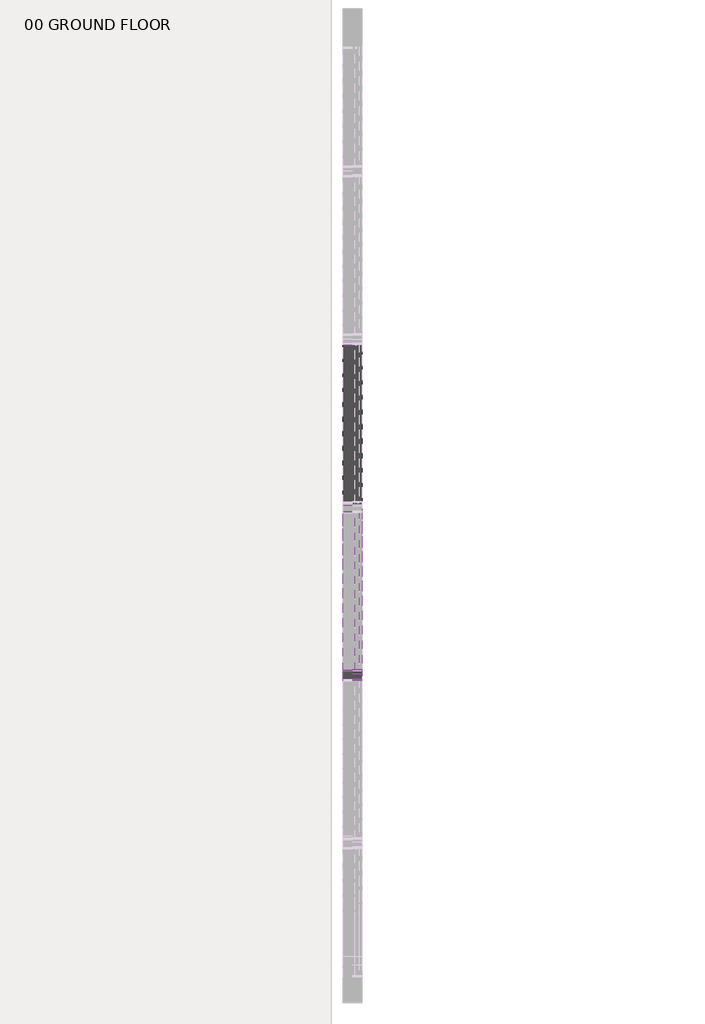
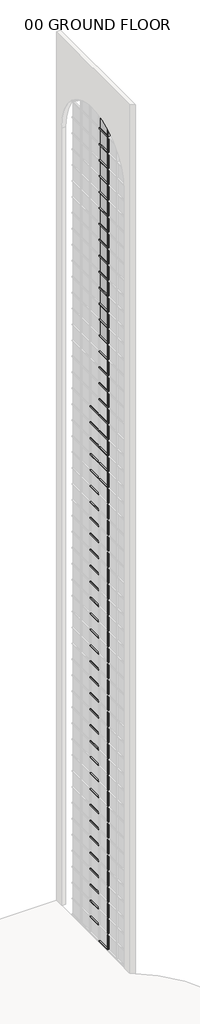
# One storey, part 27 of 33: 110 members, 14 plates.
"""IFC4 building model written with IfcOpenShell, lengths in millimetres."""

from ifc_helpers import new_model, si_unit, origin, place, context, project, spatial, transform, mapped, element, save
from components import member_14f97ceb, member_d1490fb0, member_2b49869a, member_3adf77c9, member_8e57c6d7, system_panel_glazed_ba000c98, system_panel_glazed_35b13dc1

model = new_model("IFC4")

# Units and contexts
model_context = context("Model", 3, world=origin())
ifc_project = project(units=[si_unit("LENGTHUNIT", "METRE", prefix="MILLI")], contexts=[model_context])

# Site, building, storey
site = spatial("IfcSite", under=ifc_project)
building = spatial("IfcBuilding", under=site)
storey = spatial("IfcBuildingStorey", under=building, Name="00 GROUND FLOOR", Elevation=0.0)

# Members
placement = place(None, origin())
member_shape = member_14f97ceb(model_context)
element("IfcMember", 1, ObjectType="Rectangular Mullion : 2.5\" x 5\" rectangular", at=placement, inside=storey, context=model_context, shape_type="MappedRepresentation", body=[
    mapped(member_shape, transform((44184.4050515, 28513.7678572, 0.0), x_axis=(0.0, 0.0, -1.0), y_axis=(-1.0, 0.0, 0.0), z_axis=(0.0, 1.0, 0.0))),
])
member_2_shape = member_d1490fb0(model_context)
element("IfcMember", 2, ObjectType="Rectangular Mullion : 2.5\" x 5\" rectangular", at=placement, inside=storey, context=model_context, shape_type="MappedRepresentation", body=[
    mapped(member_2_shape, transform((44184.4050515, 28577.2678572, 1219.2), x_axis=(0.0, 0.0, 1.0), y_axis=(-1.0, 0.0, 0.0), z_axis=(0.0, -1.0, 0.0))),
])
element("IfcMember", 3, ObjectType="Rectangular Mullion : 2.5\" x 5\" rectangular", at=placement, inside=storey, context=model_context, shape_type="MappedRepresentation", body=[
    mapped(member_2_shape, transform((44184.4050515, 28577.2678572, 2438.4), x_axis=(0.0, 0.0, 1.0), y_axis=(-1.0, 0.0, 0.0), z_axis=(0.0, -1.0, 0.0))),
])
element("IfcMember", 4, ObjectType="Rectangular Mullion : 2.5\" x 5\" rectangular", at=placement, inside=storey, context=model_context, shape_type="MappedRepresentation", body=[
    mapped(member_2_shape, transform((44184.4050515, 28577.2678572, 3657.6), x_axis=(0.0, 0.0, 1.0), y_axis=(-1.0, 0.0, 0.0), z_axis=(0.0, -1.0, 0.0))),
])
element("IfcMember", 5, ObjectType="Rectangular Mullion : 2.5\" x 5\" rectangular", at=placement, inside=storey, context=model_context, shape_type="MappedRepresentation", body=[
    mapped(member_2_shape, transform((44184.4050515, 28577.2678572, 4876.8), x_axis=(0.0, 0.0, 1.0), y_axis=(-1.0, 0.0, 0.0), z_axis=(0.0, -1.0, 0.0))),
])
element("IfcMember", 6, ObjectType="Rectangular Mullion : 2.5\" x 5\" rectangular", at=placement, inside=storey, context=model_context, shape_type="MappedRepresentation", body=[
    mapped(member_2_shape, transform((44184.4050515, 28577.2678572, 6096.0), x_axis=(0.0, 0.0, 1.0), y_axis=(-1.0, 0.0, 0.0), z_axis=(0.0, -1.0, 0.0))),
])
element("IfcMember", 7, ObjectType="Rectangular Mullion : 2.5\" x 5\" rectangular", at=placement, inside=storey, context=model_context, shape_type="MappedRepresentation", body=[
    mapped(member_2_shape, transform((44184.4050515, 28577.2678572, 7315.2), x_axis=(0.0, 0.0, 1.0), y_axis=(-1.0, 0.0, 0.0), z_axis=(0.0, -1.0, 0.0))),
])
element("IfcMember", 8, ObjectType="Rectangular Mullion : 2.5\" x 5\" rectangular", at=placement, inside=storey, context=model_context, shape_type="MappedRepresentation", body=[
    mapped(member_2_shape, transform((44184.4050515, 28577.2678572, 8534.4), x_axis=(0.0, 0.0, 1.0), y_axis=(-1.0, 0.0, 0.0), z_axis=(0.0, -1.0, 0.0))),
])
element("IfcMember", 9, ObjectType="Rectangular Mullion : 2.5\" x 5\" rectangular", at=placement, inside=storey, context=model_context, shape_type="MappedRepresentation", body=[
    mapped(member_2_shape, transform((44184.4050515, 28577.2678572, 9753.6), x_axis=(0.0, 0.0, 1.0), y_axis=(-1.0, 0.0, 0.0), z_axis=(0.0, -1.0, 0.0))),
])
element("IfcMember", 10, ObjectType="Rectangular Mullion : 2.5\" x 5\" rectangular", at=placement, inside=storey, context=model_context, shape_type="MappedRepresentation", body=[
    mapped(member_2_shape, transform((44184.4050515, 28577.2678572, 10972.8), x_axis=(0.0, 0.0, 1.0), y_axis=(-1.0, 0.0, 0.0), z_axis=(0.0, -1.0, 0.0))),
])
element("IfcMember", 11, ObjectType="Rectangular Mullion : 2.5\" x 5\" rectangular", at=placement, inside=storey, context=model_context, shape_type="MappedRepresentation", body=[
    mapped(member_2_shape, transform((44184.4050515, 28577.2678572, 12192.0), x_axis=(0.0, 0.0, 1.0), y_axis=(-1.0, 0.0, 0.0), z_axis=(0.0, -1.0, 0.0))),
])
element("IfcMember", 12, ObjectType="Rectangular Mullion : 2.5\" x 5\" rectangular", at=placement, inside=storey, context=model_context, shape_type="MappedRepresentation", body=[
    mapped(member_2_shape, transform((44184.4050515, 28577.2678572, 13411.2), x_axis=(0.0, 0.0, 1.0), y_axis=(-1.0, 0.0, 0.0), z_axis=(0.0, -1.0, 0.0))),
])
element("IfcMember", 13, ObjectType="Rectangular Mullion : 2.5\" x 5\" rectangular", at=placement, inside=storey, context=model_context, shape_type="MappedRepresentation", body=[
    mapped(member_2_shape, transform((44184.4050515, 28577.2678572, 14630.4), x_axis=(0.0, 0.0, 1.0), y_axis=(-1.0, 0.0, 0.0), z_axis=(0.0, -1.0, 0.0))),
])
element("IfcMember", 14, ObjectType="Rectangular Mullion : 2.5\" x 5\" rectangular", at=placement, inside=storey, context=model_context, shape_type="MappedRepresentation", body=[
    mapped(member_2_shape, transform((44184.4050515, 28577.2678572, 15849.6), x_axis=(0.0, 0.0, 1.0), y_axis=(-1.0, 0.0, 0.0), z_axis=(0.0, -1.0, 0.0))),
])
element("IfcMember", 15, ObjectType="Rectangular Mullion : 2.5\" x 5\" rectangular", at=placement, inside=storey, context=model_context, shape_type="MappedRepresentation", body=[
    mapped(member_2_shape, transform((44184.4050515, 28577.2678572, 17068.8), x_axis=(0.0, 0.0, 1.0), y_axis=(-1.0, 0.0, 0.0), z_axis=(0.0, -1.0, 0.0))),
])
element("IfcMember", 16, ObjectType="Rectangular Mullion : 2.5\" x 5\" rectangular", at=placement, inside=storey, context=model_context, shape_type="MappedRepresentation", body=[
    mapped(member_2_shape, transform((44184.4050515, 28577.2678572, 18288.0), x_axis=(0.0, 0.0, 1.0), y_axis=(-1.0, 0.0, 0.0), z_axis=(0.0, -1.0, 0.0))),
])
element("IfcMember", 17, ObjectType="Rectangular Mullion : 2.5\" x 5\" rectangular", at=placement, inside=storey, context=model_context, shape_type="MappedRepresentation", body=[
    mapped(member_2_shape, transform((44184.4050515, 28577.2678572, 19507.2), x_axis=(0.0, 0.0, 1.0), y_axis=(-1.0, 0.0, 0.0), z_axis=(0.0, -1.0, 0.0))),
])
element("IfcMember", 18, ObjectType="Rectangular Mullion : 2.5\" x 5\" rectangular", at=placement, inside=storey, context=model_context, shape_type="MappedRepresentation", body=[
    mapped(member_2_shape, transform((44184.4050515, 28577.2678572, 20726.4), x_axis=(0.0, 0.0, 1.0), y_axis=(-1.0, 0.0, 0.0), z_axis=(0.0, -1.0, 0.0))),
])
element("IfcMember", 19, ObjectType="Rectangular Mullion : 2.5\" x 5\" rectangular", at=placement, inside=storey, context=model_context, shape_type="MappedRepresentation", body=[
    mapped(member_2_shape, transform((44184.4050515, 28577.2678572, 21945.6), x_axis=(0.0, 0.0, 1.0), y_axis=(-1.0, 0.0, 0.0), z_axis=(0.0, -1.0, 0.0))),
])
element("IfcMember", 20, ObjectType="Rectangular Mullion : 2.5\" x 5\" rectangular", at=placement, inside=storey, context=model_context, shape_type="MappedRepresentation", body=[
    mapped(member_2_shape, transform((44184.4050515, 28577.2678572, 23164.8), x_axis=(0.0, 0.0, 1.0), y_axis=(-1.0, 0.0, 0.0), z_axis=(0.0, -1.0, 0.0))),
])
element("IfcMember", 21, ObjectType="Rectangular Mullion : 2.5\" x 5\" rectangular", at=placement, inside=storey, context=model_context, shape_type="MappedRepresentation", body=[
    mapped(member_2_shape, transform((44184.4050515, 28577.2678572, 24384.0), x_axis=(0.0, 0.0, 1.0), y_axis=(-1.0, 0.0, 0.0), z_axis=(0.0, -1.0, 0.0))),
])
element("IfcMember", 22, ObjectType="Rectangular Mullion : 2.5\" x 5\" rectangular", at=placement, inside=storey, context=model_context, shape_type="MappedRepresentation", body=[
    mapped(member_2_shape, transform((44184.4050515, 28577.2678572, 25603.2), x_axis=(0.0, 0.0, 1.0), y_axis=(-1.0, 0.0, 0.0), z_axis=(0.0, -1.0, 0.0))),
])
element("IfcMember", 23, ObjectType="Rectangular Mullion : 2.5\" x 5\" rectangular", at=placement, inside=storey, context=model_context, shape_type="MappedRepresentation", body=[
    mapped(member_2_shape, transform((44184.4050515, 28577.2678572, 26822.4), x_axis=(0.0, 0.0, 1.0), y_axis=(-1.0, 0.0, 0.0), z_axis=(0.0, -1.0, 0.0))),
])
element("IfcMember", 24, ObjectType="Rectangular Mullion : 2.5\" x 5\" rectangular", at=placement, inside=storey, context=model_context, shape_type="MappedRepresentation", body=[
    mapped(member_2_shape, transform((44184.4050515, 28577.2678572, 28041.6), x_axis=(0.0, 0.0, 1.0), y_axis=(-1.0, 0.0, 0.0), z_axis=(0.0, -1.0, 0.0))),
])
element("IfcMember", 25, ObjectType="Rectangular Mullion : 2.5\" x 5\" rectangular", at=placement, inside=storey, context=model_context, shape_type="MappedRepresentation", body=[
    mapped(member_2_shape, transform((44184.4050515, 28577.2678572, 29260.8), x_axis=(0.0, 0.0, 1.0), y_axis=(-1.0, 0.0, 0.0), z_axis=(0.0, -1.0, 0.0))),
])
element("IfcMember", 26, ObjectType="Rectangular Mullion : 2.5\" x 5\" rectangular", at=placement, inside=storey, context=model_context, shape_type="MappedRepresentation", body=[
    mapped(member_2_shape, transform((44184.4050515, 28577.2678572, 30480.0), x_axis=(0.0, 0.0, 1.0), y_axis=(-1.0, 0.0, 0.0), z_axis=(0.0, -1.0, 0.0))),
])
element("IfcMember", 27, ObjectType="Rectangular Mullion : 2.5\" x 5\" rectangular", at=placement, inside=storey, context=model_context, shape_type="MappedRepresentation", body=[
    mapped(member_2_shape, transform((44184.4050515, 28577.2678572, 31699.2), x_axis=(0.0, 0.0, 1.0), y_axis=(-1.0, 0.0, 0.0), z_axis=(0.0, -1.0, 0.0))),
])
element("IfcMember", 28, ObjectType="Rectangular Mullion : 2.5\" x 5\" rectangular", at=placement, inside=storey, context=model_context, shape_type="MappedRepresentation", body=[
    mapped(member_2_shape, transform((44184.4050515, 28577.2678572, 32918.4), x_axis=(0.0, 0.0, 1.0), y_axis=(-1.0, 0.0, 0.0), z_axis=(0.0, -1.0, 0.0))),
])
element("IfcMember", 29, ObjectType="Rectangular Mullion : 2.5\" x 5\" rectangular", at=placement, inside=storey, context=model_context, shape_type="MappedRepresentation", body=[
    mapped(member_2_shape, transform((44184.4050515, 28577.2678572, 34137.6), x_axis=(0.0, 0.0, 1.0), y_axis=(-1.0, 0.0, 0.0), z_axis=(0.0, -1.0, 0.0))),
])
element("IfcMember", 30, ObjectType="Rectangular Mullion : 2.5\" x 5\" rectangular", at=placement, inside=storey, context=model_context, shape_type="MappedRepresentation", body=[
    mapped(member_2_shape, transform((44184.4050515, 28577.2678572, 35356.8), x_axis=(0.0, 0.0, 1.0), y_axis=(-1.0, 0.0, 0.0), z_axis=(0.0, -1.0, 0.0))),
])
element("IfcMember", 31, ObjectType="Rectangular Mullion : 2.5\" x 5\" rectangular", at=placement, inside=storey, context=model_context, shape_type="MappedRepresentation", body=[
    mapped(member_2_shape, transform((44184.4050515, 27445.1535716, 35356.8), x_axis=(0.0, 0.0, 1.0), y_axis=(-1.0, 0.0, 0.0), z_axis=(0.0, -1.0, 0.0))),
])
element("IfcMember", 32, ObjectType="Rectangular Mullion : 2.5\" x 5\" rectangular", at=placement, inside=storey, context=model_context, shape_type="MappedRepresentation", body=[
    mapped(member_2_shape, transform((44184.4050515, 28577.2678572, 36576.0), x_axis=(0.0, 0.0, 1.0), y_axis=(-1.0, 0.0, 0.0), z_axis=(0.0, -1.0, 0.0))),
])
element("IfcMember", 33, ObjectType="Rectangular Mullion : 2.5\" x 5\" rectangular", at=placement, inside=storey, context=model_context, shape_type="MappedRepresentation", body=[
    mapped(member_2_shape, transform((44184.4050515, 27445.1535716, 36576.0), x_axis=(0.0, 0.0, 1.0), y_axis=(-1.0, 0.0, 0.0), z_axis=(0.0, -1.0, 0.0))),
])
element("IfcMember", 34, ObjectType="Rectangular Mullion : 2.5\" x 5\" rectangular", at=placement, inside=storey, context=model_context, shape_type="MappedRepresentation", body=[
    mapped(member_2_shape, transform((44184.4050515, 28577.2678572, 37795.2), x_axis=(0.0, 0.0, 1.0), y_axis=(-1.0, 0.0, 0.0), z_axis=(0.0, -1.0, 0.0))),
])
element("IfcMember", 35, ObjectType="Rectangular Mullion : 2.5\" x 5\" rectangular", at=placement, inside=storey, context=model_context, shape_type="MappedRepresentation", body=[
    mapped(member_2_shape, transform((44184.4050515, 27445.1535716, 37795.2), x_axis=(0.0, 0.0, 1.0), y_axis=(-1.0, 0.0, 0.0), z_axis=(0.0, -1.0, 0.0))),
])
element("IfcMember", 36, ObjectType="Rectangular Mullion : 2.5\" x 5\" rectangular", at=placement, inside=storey, context=model_context, shape_type="MappedRepresentation", body=[
    mapped(member_2_shape, transform((44184.4050515, 28577.2678572, 39014.4), x_axis=(0.0, 0.0, 1.0), y_axis=(-1.0, 0.0, 0.0), z_axis=(0.0, -1.0, 0.0))),
])
element("IfcMember", 37, ObjectType="Rectangular Mullion : 2.5\" x 5\" rectangular", at=placement, inside=storey, context=model_context, shape_type="MappedRepresentation", body=[
    mapped(member_2_shape, transform((44184.4050515, 27445.1535716, 39014.4), x_axis=(0.0, 0.0, 1.0), y_axis=(-1.0, 0.0, 0.0), z_axis=(0.0, -1.0, 0.0))),
])
element("IfcMember", 38, ObjectType="Rectangular Mullion : 2.5\" x 5\" rectangular", at=placement, inside=storey, context=model_context, shape_type="MappedRepresentation", body=[
    mapped(member_2_shape, transform((44184.4050515, 28577.2678572, 40233.6), x_axis=(0.0, 0.0, 1.0), y_axis=(-1.0, 0.0, 0.0), z_axis=(0.0, -1.0, 0.0))),
])
element("IfcMember", 39, ObjectType="Rectangular Mullion : 2.5\" x 5\" rectangular", at=placement, inside=storey, context=model_context, shape_type="MappedRepresentation", body=[
    mapped(member_2_shape, transform((44184.4050515, 27445.1535716, 40233.6), x_axis=(0.0, 0.0, 1.0), y_axis=(-1.0, 0.0, 0.0), z_axis=(0.0, -1.0, 0.0))),
])
element("IfcMember", 40, ObjectType="Rectangular Mullion : 2.5\" x 5\" rectangular", at=placement, inside=storey, context=model_context, shape_type="MappedRepresentation", body=[
    mapped(member_2_shape, transform((44184.4050515, 27445.1535716, 41452.8), x_axis=(0.0, 0.0, 1.0), y_axis=(-1.0, 0.0, 0.0), z_axis=(0.0, -1.0, 0.0))),
])
element("IfcMember", 41, ObjectType="Rectangular Mullion : 2.5\" x 5\" rectangular", at=placement, inside=storey, context=model_context, shape_type="MappedRepresentation", body=[
    mapped(member_2_shape, transform((44184.4050515, 27445.1535716, 42672.0), x_axis=(0.0, 0.0, 1.0), y_axis=(-1.0, 0.0, 0.0), z_axis=(0.0, -1.0, 0.0))),
])
element("IfcMember", 42, ObjectType="Rectangular Mullion : 2.5\" x 5\" rectangular", at=placement, inside=storey, context=model_context, shape_type="MappedRepresentation", body=[
    mapped(member_2_shape, transform((44184.4050515, 27445.1535716, 43891.2), x_axis=(0.0, 0.0, 1.0), y_axis=(-1.0, 0.0, 0.0), z_axis=(0.0, -1.0, 0.0))),
])
element("IfcMember", 43, ObjectType="Rectangular Mullion : 2.5\" x 5\" rectangular", at=placement, inside=storey, context=model_context, shape_type="MappedRepresentation", body=[
    mapped(member_2_shape, transform((44184.4050515, 27445.1535716, 45110.4), x_axis=(0.0, 0.0, 1.0), y_axis=(-1.0, 0.0, 0.0), z_axis=(0.0, -1.0, 0.0))),
])
element("IfcMember", 44, ObjectType="Rectangular Mullion : 2.5\" x 5\" rectangular", at=placement, inside=storey, context=model_context, shape_type="MappedRepresentation", body=[
    mapped(member_2_shape, transform((44184.4050515, 27445.1535716, 46329.6), x_axis=(0.0, 0.0, 1.0), y_axis=(-1.0, 0.0, 0.0), z_axis=(0.0, -1.0, 0.0))),
])
element("IfcMember", 45, ObjectType="Rectangular Mullion : 2.5\" x 5\" rectangular", at=placement, inside=storey, context=model_context, shape_type="MappedRepresentation", body=[
    mapped(member_2_shape, transform((44184.4050515, 27445.1535716, 47548.8), x_axis=(0.0, 0.0, 1.0), y_axis=(-1.0, 0.0, 0.0), z_axis=(0.0, -1.0, 0.0))),
])
element("IfcMember", 46, ObjectType="Rectangular Mullion : 2.5\" x 5\" rectangular", at=placement, inside=storey, context=model_context, shape_type="MappedRepresentation", body=[
    mapped(member_2_shape, transform((44184.4050515, 27445.1535716, 48768.0), x_axis=(0.0, 0.0, 1.0), y_axis=(-1.0, 0.0, 0.0), z_axis=(0.0, -1.0, 0.0))),
])
element("IfcMember", 47, ObjectType="Rectangular Mullion : 2.5\" x 5\" rectangular", at=placement, inside=storey, context=model_context, shape_type="MappedRepresentation", body=[
    mapped(member_2_shape, transform((44184.4050515, 27445.1535716, 49987.2), x_axis=(0.0, 0.0, 1.0), y_axis=(-1.0, 0.0, 0.0), z_axis=(0.0, -1.0, 0.0))),
])
element("IfcMember", 48, ObjectType="Rectangular Mullion : 2.5\" x 5\" rectangular", at=placement, inside=storey, context=model_context, shape_type="MappedRepresentation", body=[
    mapped(member_2_shape, transform((44184.4050515, 27445.1535716, 51206.4), x_axis=(0.0, 0.0, 1.0), y_axis=(-1.0, 0.0, 0.0), z_axis=(0.0, -1.0, 0.0))),
])
element("IfcMember", 49, ObjectType="Rectangular Mullion : 2.5\" x 5\" rectangular", at=placement, inside=storey, context=model_context, shape_type="MappedRepresentation", body=[
    mapped(member_2_shape, transform((44184.4050515, 27445.1535716, 52425.6), x_axis=(0.0, 0.0, 1.0), y_axis=(-1.0, 0.0, 0.0), z_axis=(0.0, -1.0, 0.0))),
])
element("IfcMember", 50, ObjectType="Rectangular Mullion : 2.5\" x 5\" rectangular", at=placement, inside=storey, context=model_context, shape_type="MappedRepresentation", body=[
    mapped(member_2_shape, transform((44184.4050515, 27445.1535716, 53644.8), x_axis=(0.0, 0.0, 1.0), y_axis=(-1.0, 0.0, 0.0), z_axis=(0.0, -1.0, 0.0))),
])
element("IfcMember", 51, ObjectType="Rectangular Mullion : 2.5\" x 5\" rectangular", at=placement, inside=storey, context=model_context, shape_type="MappedRepresentation", body=[
    mapped(member_2_shape, transform((44184.4050515, 27445.1535716, 54864.0), x_axis=(0.0, 0.0, 1.0), y_axis=(-1.0, 0.0, 0.0), z_axis=(0.0, -1.0, 0.0))),
])
element("IfcMember", 52, ObjectType="Rectangular Mullion : 2.5\" x 5\" rectangular", at=placement, inside=storey, context=model_context, shape_type="MappedRepresentation", body=[
    mapped(member_2_shape, transform((44184.4050515, 27445.1535716, 56083.2), x_axis=(0.0, 0.0, 1.0), y_axis=(-1.0, 0.0, 0.0), z_axis=(0.0, -1.0, 0.0))),
])
element("IfcMember", 53, ObjectType="Rectangular Mullion : 2.5\" x 5\" rectangular", at=placement, inside=storey, context=model_context, shape_type="MappedRepresentation", body=[
    mapped(member_2_shape, transform((44184.4050515, 27445.1535716, 57302.4), x_axis=(0.0, 0.0, 1.0), y_axis=(-1.0, 0.0, 0.0), z_axis=(0.0, -1.0, 0.0))),
])
element("IfcMember", 54, ObjectType="Rectangular Mullion : 2.5\" x 5\" rectangular", at=placement, inside=storey, context=model_context, shape_type="MappedRepresentation", body=[
    mapped(member_2_shape, transform((44184.4050515, 27445.1535716, 58521.6), x_axis=(0.0, 0.0, 1.0), y_axis=(-1.0, 0.0, 0.0), z_axis=(0.0, -1.0, 0.0))),
])
element("IfcMember", 55, ObjectType="Rectangular Mullion : 2.5\" x 5\" rectangular", at=placement, inside=storey, context=model_context, shape_type="MappedRepresentation", body=[
    mapped(member_2_shape, transform((44184.4050515, 27445.1535716, 59740.8), x_axis=(0.0, 0.0, 1.0), y_axis=(-1.0, 0.0, 0.0), z_axis=(0.0, -1.0, 0.0))),
])
element("IfcMember", 56, ObjectType="Rectangular Mullion : 2.5\" x 5\" rectangular", at=placement, inside=storey, context=model_context, shape_type="MappedRepresentation", body=[
    mapped(member_2_shape, transform((44184.4050515, 27445.1535716, 60960.0), x_axis=(0.0, 0.0, 1.0), y_axis=(-1.0, 0.0, 0.0), z_axis=(0.0, -1.0, 0.0))),
])
element("IfcMember", 57, ObjectType="Rectangular Mullion : 2.5\" x 5\" rectangular", at=placement, inside=storey, context=model_context, shape_type="MappedRepresentation", body=[
    mapped(member_2_shape, transform((44184.4050515, 27445.1535716, 62179.2), x_axis=(0.0, 0.0, 1.0), y_axis=(-1.0, 0.0, 0.0), z_axis=(0.0, -1.0, 0.0))),
])
member_3_shape = member_2b49869a(model_context)
element("IfcMember", 58, ObjectType="Rectangular Mullion : 2.5\" x 5\" rectangular", at=placement, inside=storey, context=model_context, shape_type="MappedRepresentation", body=[
    mapped(member_3_shape, transform((44184.4050515, 27413.4035716, 0.0), x_axis=(0.0, -1.0, 0.0), y_axis=(-1.0, 0.0, 0.0), z_axis=(0.0, 0.0, -1.0))),
])
element("IfcMember", 59, ObjectType="Rectangular Mullion : 2.5\" x 5\" rectangular", at=placement, inside=storey, context=model_context, shape_type="MappedRepresentation", body=[
    mapped(member_3_shape, transform((44184.4050515, 27413.4035716, 1219.2), x_axis=(0.0, -1.0, 0.0), y_axis=(-1.0, 0.0, 0.0), z_axis=(0.0, 0.0, -1.0))),
])
element("IfcMember", 60, ObjectType="Rectangular Mullion : 2.5\" x 5\" rectangular", at=placement, inside=storey, context=model_context, shape_type="MappedRepresentation", body=[
    mapped(member_3_shape, transform((44184.4050515, 27413.4035716, 2438.4), x_axis=(0.0, -1.0, 0.0), y_axis=(-1.0, 0.0, 0.0), z_axis=(0.0, 0.0, -1.0))),
])
element("IfcMember", 61, ObjectType="Rectangular Mullion : 2.5\" x 5\" rectangular", at=placement, inside=storey, context=model_context, shape_type="MappedRepresentation", body=[
    mapped(member_3_shape, transform((44184.4050515, 27413.4035716, 3657.6), x_axis=(0.0, -1.0, 0.0), y_axis=(-1.0, 0.0, 0.0), z_axis=(0.0, 0.0, -1.0))),
])
element("IfcMember", 62, ObjectType="Rectangular Mullion : 2.5\" x 5\" rectangular", at=placement, inside=storey, context=model_context, shape_type="MappedRepresentation", body=[
    mapped(member_3_shape, transform((44184.4050515, 27413.4035716, 4876.8), x_axis=(0.0, -1.0, 0.0), y_axis=(-1.0, 0.0, 0.0), z_axis=(0.0, 0.0, -1.0))),
])
element("IfcMember", 63, ObjectType="Rectangular Mullion : 2.5\" x 5\" rectangular", at=placement, inside=storey, context=model_context, shape_type="MappedRepresentation", body=[
    mapped(member_3_shape, transform((44184.4050515, 27413.4035716, 6096.0), x_axis=(0.0, -1.0, 0.0), y_axis=(-1.0, 0.0, 0.0), z_axis=(0.0, 0.0, -1.0))),
])
element("IfcMember", 64, ObjectType="Rectangular Mullion : 2.5\" x 5\" rectangular", at=placement, inside=storey, context=model_context, shape_type="MappedRepresentation", body=[
    mapped(member_3_shape, transform((44184.4050515, 27413.4035716, 7315.2), x_axis=(0.0, -1.0, 0.0), y_axis=(-1.0, 0.0, 0.0), z_axis=(0.0, 0.0, -1.0))),
])
element("IfcMember", 65, ObjectType="Rectangular Mullion : 2.5\" x 5\" rectangular", at=placement, inside=storey, context=model_context, shape_type="MappedRepresentation", body=[
    mapped(member_3_shape, transform((44184.4050515, 27413.4035716, 8534.4), x_axis=(0.0, -1.0, 0.0), y_axis=(-1.0, 0.0, 0.0), z_axis=(0.0, 0.0, -1.0))),
])
element("IfcMember", 66, ObjectType="Rectangular Mullion : 2.5\" x 5\" rectangular", at=placement, inside=storey, context=model_context, shape_type="MappedRepresentation", body=[
    mapped(member_3_shape, transform((44184.4050515, 27413.4035716, 9753.6), x_axis=(0.0, -1.0, 0.0), y_axis=(-1.0, 0.0, 0.0), z_axis=(0.0, 0.0, -1.0))),
])
element("IfcMember", 67, ObjectType="Rectangular Mullion : 2.5\" x 5\" rectangular", at=placement, inside=storey, context=model_context, shape_type="MappedRepresentation", body=[
    mapped(member_3_shape, transform((44184.4050515, 27413.4035716, 10972.8), x_axis=(0.0, -1.0, 0.0), y_axis=(-1.0, 0.0, 0.0), z_axis=(0.0, 0.0, -1.0))),
])
element("IfcMember", 68, ObjectType="Rectangular Mullion : 2.5\" x 5\" rectangular", at=placement, inside=storey, context=model_context, shape_type="MappedRepresentation", body=[
    mapped(member_3_shape, transform((44184.4050515, 27413.4035716, 12192.0), x_axis=(0.0, -1.0, 0.0), y_axis=(-1.0, 0.0, 0.0), z_axis=(0.0, 0.0, -1.0))),
])
element("IfcMember", 69, ObjectType="Rectangular Mullion : 2.5\" x 5\" rectangular", at=placement, inside=storey, context=model_context, shape_type="MappedRepresentation", body=[
    mapped(member_3_shape, transform((44184.4050515, 27413.4035716, 13411.2), x_axis=(0.0, -1.0, 0.0), y_axis=(-1.0, 0.0, 0.0), z_axis=(0.0, 0.0, -1.0))),
])
element("IfcMember", 70, ObjectType="Rectangular Mullion : 2.5\" x 5\" rectangular", at=placement, inside=storey, context=model_context, shape_type="MappedRepresentation", body=[
    mapped(member_3_shape, transform((44184.4050515, 27413.4035716, 14630.4), x_axis=(0.0, -1.0, 0.0), y_axis=(-1.0, 0.0, 0.0), z_axis=(0.0, 0.0, -1.0))),
])
element("IfcMember", 71, ObjectType="Rectangular Mullion : 2.5\" x 5\" rectangular", at=placement, inside=storey, context=model_context, shape_type="MappedRepresentation", body=[
    mapped(member_3_shape, transform((44184.4050515, 27413.4035716, 15849.6), x_axis=(0.0, -1.0, 0.0), y_axis=(-1.0, 0.0, 0.0), z_axis=(0.0, 0.0, -1.0))),
])
element("IfcMember", 72, ObjectType="Rectangular Mullion : 2.5\" x 5\" rectangular", at=placement, inside=storey, context=model_context, shape_type="MappedRepresentation", body=[
    mapped(member_3_shape, transform((44184.4050515, 27413.4035716, 17068.8), x_axis=(0.0, -1.0, 0.0), y_axis=(-1.0, 0.0, 0.0), z_axis=(0.0, 0.0, -1.0))),
])
element("IfcMember", 73, ObjectType="Rectangular Mullion : 2.5\" x 5\" rectangular", at=placement, inside=storey, context=model_context, shape_type="MappedRepresentation", body=[
    mapped(member_3_shape, transform((44184.4050515, 27413.4035716, 18288.0), x_axis=(0.0, -1.0, 0.0), y_axis=(-1.0, 0.0, 0.0), z_axis=(0.0, 0.0, -1.0))),
])
element("IfcMember", 74, ObjectType="Rectangular Mullion : 2.5\" x 5\" rectangular", at=placement, inside=storey, context=model_context, shape_type="MappedRepresentation", body=[
    mapped(member_3_shape, transform((44184.4050515, 27413.4035716, 19507.2), x_axis=(0.0, -1.0, 0.0), y_axis=(-1.0, 0.0, 0.0), z_axis=(0.0, 0.0, -1.0))),
])
element("IfcMember", 75, ObjectType="Rectangular Mullion : 2.5\" x 5\" rectangular", at=placement, inside=storey, context=model_context, shape_type="MappedRepresentation", body=[
    mapped(member_3_shape, transform((44184.4050515, 27413.4035716, 20726.4), x_axis=(0.0, -1.0, 0.0), y_axis=(-1.0, 0.0, 0.0), z_axis=(0.0, 0.0, -1.0))),
])
element("IfcMember", 76, ObjectType="Rectangular Mullion : 2.5\" x 5\" rectangular", at=placement, inside=storey, context=model_context, shape_type="MappedRepresentation", body=[
    mapped(member_3_shape, transform((44184.4050515, 27413.4035716, 21945.6), x_axis=(0.0, -1.0, 0.0), y_axis=(-1.0, 0.0, 0.0), z_axis=(0.0, 0.0, -1.0))),
])
element("IfcMember", 77, ObjectType="Rectangular Mullion : 2.5\" x 5\" rectangular", at=placement, inside=storey, context=model_context, shape_type="MappedRepresentation", body=[
    mapped(member_3_shape, transform((44184.4050515, 27413.4035716, 23164.8), x_axis=(0.0, -1.0, 0.0), y_axis=(-1.0, 0.0, 0.0), z_axis=(0.0, 0.0, -1.0))),
])
element("IfcMember", 78, ObjectType="Rectangular Mullion : 2.5\" x 5\" rectangular", at=placement, inside=storey, context=model_context, shape_type="MappedRepresentation", body=[
    mapped(member_3_shape, transform((44184.4050515, 27413.4035716, 24384.0), x_axis=(0.0, -1.0, 0.0), y_axis=(-1.0, 0.0, 0.0), z_axis=(0.0, 0.0, -1.0))),
])
element("IfcMember", 79, ObjectType="Rectangular Mullion : 2.5\" x 5\" rectangular", at=placement, inside=storey, context=model_context, shape_type="MappedRepresentation", body=[
    mapped(member_3_shape, transform((44184.4050515, 27413.4035716, 25603.2), x_axis=(0.0, -1.0, 0.0), y_axis=(-1.0, 0.0, 0.0), z_axis=(0.0, 0.0, -1.0))),
])
element("IfcMember", 80, ObjectType="Rectangular Mullion : 2.5\" x 5\" rectangular", at=placement, inside=storey, context=model_context, shape_type="MappedRepresentation", body=[
    mapped(member_3_shape, transform((44184.4050515, 27413.4035716, 26822.4), x_axis=(0.0, -1.0, 0.0), y_axis=(-1.0, 0.0, 0.0), z_axis=(0.0, 0.0, -1.0))),
])
element("IfcMember", 81, ObjectType="Rectangular Mullion : 2.5\" x 5\" rectangular", at=placement, inside=storey, context=model_context, shape_type="MappedRepresentation", body=[
    mapped(member_3_shape, transform((44184.4050515, 27413.4035716, 28041.6), x_axis=(0.0, -1.0, 0.0), y_axis=(-1.0, 0.0, 0.0), z_axis=(0.0, 0.0, -1.0))),
])
element("IfcMember", 82, ObjectType="Rectangular Mullion : 2.5\" x 5\" rectangular", at=placement, inside=storey, context=model_context, shape_type="MappedRepresentation", body=[
    mapped(member_3_shape, transform((44184.4050515, 27413.4035716, 29260.8), x_axis=(0.0, -1.0, 0.0), y_axis=(-1.0, 0.0, 0.0), z_axis=(0.0, 0.0, -1.0))),
])
element("IfcMember", 83, ObjectType="Rectangular Mullion : 2.5\" x 5\" rectangular", at=placement, inside=storey, context=model_context, shape_type="MappedRepresentation", body=[
    mapped(member_3_shape, transform((44184.4050515, 27413.4035716, 30480.0), x_axis=(0.0, -1.0, 0.0), y_axis=(-1.0, 0.0, 0.0), z_axis=(0.0, 0.0, -1.0))),
])
element("IfcMember", 84, ObjectType="Rectangular Mullion : 2.5\" x 5\" rectangular", at=placement, inside=storey, context=model_context, shape_type="MappedRepresentation", body=[
    mapped(member_3_shape, transform((44184.4050515, 27413.4035716, 31699.2), x_axis=(0.0, -1.0, 0.0), y_axis=(-1.0, 0.0, 0.0), z_axis=(0.0, 0.0, -1.0))),
])
element("IfcMember", 85, ObjectType="Rectangular Mullion : 2.5\" x 5\" rectangular", at=placement, inside=storey, context=model_context, shape_type="MappedRepresentation", body=[
    mapped(member_3_shape, transform((44184.4050515, 27413.4035716, 32918.4), x_axis=(0.0, -1.0, 0.0), y_axis=(-1.0, 0.0, 0.0), z_axis=(0.0, 0.0, -1.0))),
])
element("IfcMember", 86, ObjectType="Rectangular Mullion : 2.5\" x 5\" rectangular", at=placement, inside=storey, context=model_context, shape_type="MappedRepresentation", body=[
    mapped(member_3_shape, transform((44184.4050515, 27413.4035716, 34137.6), x_axis=(0.0, -1.0, 0.0), y_axis=(-1.0, 0.0, 0.0), z_axis=(0.0, 0.0, -1.0))),
])
element("IfcMember", 87, ObjectType="Rectangular Mullion : 2.5\" x 5\" rectangular", at=placement, inside=storey, context=model_context, shape_type="MappedRepresentation", body=[
    mapped(member_3_shape, transform((44184.4050515, 27413.4035716, 35356.8), x_axis=(0.0, -1.0, 0.0), y_axis=(-1.0, 0.0, 0.0), z_axis=(0.0, 0.0, -1.0))),
])
element("IfcMember", 88, ObjectType="Rectangular Mullion : 2.5\" x 5\" rectangular", at=placement, inside=storey, context=model_context, shape_type="MappedRepresentation", body=[
    mapped(member_3_shape, transform((44184.4050515, 27413.4035716, 36576.0), x_axis=(0.0, -1.0, 0.0), y_axis=(-1.0, 0.0, 0.0), z_axis=(0.0, 0.0, -1.0))),
])
element("IfcMember", 89, ObjectType="Rectangular Mullion : 2.5\" x 5\" rectangular", at=placement, inside=storey, context=model_context, shape_type="MappedRepresentation", body=[
    mapped(member_3_shape, transform((44184.4050515, 27413.4035716, 37795.2), x_axis=(0.0, -1.0, 0.0), y_axis=(-1.0, 0.0, 0.0), z_axis=(0.0, 0.0, -1.0))),
])
element("IfcMember", 90, ObjectType="Rectangular Mullion : 2.5\" x 5\" rectangular", at=placement, inside=storey, context=model_context, shape_type="MappedRepresentation", body=[
    mapped(member_3_shape, transform((44184.4050515, 27413.4035716, 39014.4), x_axis=(0.0, -1.0, 0.0), y_axis=(-1.0, 0.0, 0.0), z_axis=(0.0, 0.0, -1.0))),
])
element("IfcMember", 91, ObjectType="Rectangular Mullion : 2.5\" x 5\" rectangular", at=placement, inside=storey, context=model_context, shape_type="MappedRepresentation", body=[
    mapped(member_3_shape, transform((44184.4050515, 27413.4035716, 40233.6), x_axis=(0.0, -1.0, 0.0), y_axis=(-1.0, 0.0, 0.0), z_axis=(0.0, 0.0, -1.0))),
])
element("IfcMember", 92, ObjectType="Rectangular Mullion : 2.5\" x 5\" rectangular", at=placement, inside=storey, context=model_context, shape_type="MappedRepresentation", body=[
    mapped(member_3_shape, transform((44184.4050515, 27413.4035716, 41452.8), x_axis=(0.0, -1.0, 0.0), y_axis=(-1.0, 0.0, 0.0), z_axis=(0.0, 0.0, -1.0))),
])
element("IfcMember", 93, ObjectType="Rectangular Mullion : 2.5\" x 5\" rectangular", at=placement, inside=storey, context=model_context, shape_type="MappedRepresentation", body=[
    mapped(member_3_shape, transform((44184.4050515, 27413.4035716, 42672.0), x_axis=(0.0, -1.0, 0.0), y_axis=(-1.0, 0.0, 0.0), z_axis=(0.0, 0.0, -1.0))),
])
element("IfcMember", 94, ObjectType="Rectangular Mullion : 2.5\" x 5\" rectangular", at=placement, inside=storey, context=model_context, shape_type="MappedRepresentation", body=[
    mapped(member_3_shape, transform((44184.4050515, 27413.4035716, 43891.2), x_axis=(0.0, -1.0, 0.0), y_axis=(-1.0, 0.0, 0.0), z_axis=(0.0, 0.0, -1.0))),
])
element("IfcMember", 95, ObjectType="Rectangular Mullion : 2.5\" x 5\" rectangular", at=placement, inside=storey, context=model_context, shape_type="MappedRepresentation", body=[
    mapped(member_3_shape, transform((44184.4050515, 27413.4035716, 45110.4), x_axis=(0.0, -1.0, 0.0), y_axis=(-1.0, 0.0, 0.0), z_axis=(0.0, 0.0, -1.0))),
])
element("IfcMember", 96, ObjectType="Rectangular Mullion : 2.5\" x 5\" rectangular", at=placement, inside=storey, context=model_context, shape_type="MappedRepresentation", body=[
    mapped(member_3_shape, transform((44184.4050515, 27413.4035716, 46329.6), x_axis=(0.0, -1.0, 0.0), y_axis=(-1.0, 0.0, 0.0), z_axis=(0.0, 0.0, -1.0))),
])
element("IfcMember", 97, ObjectType="Rectangular Mullion : 2.5\" x 5\" rectangular", at=placement, inside=storey, context=model_context, shape_type="MappedRepresentation", body=[
    mapped(member_3_shape, transform((44184.4050515, 27413.4035716, 47548.8), x_axis=(0.0, -1.0, 0.0), y_axis=(-1.0, 0.0, 0.0), z_axis=(0.0, 0.0, -1.0))),
])
element("IfcMember", 98, ObjectType="Rectangular Mullion : 2.5\" x 5\" rectangular", at=placement, inside=storey, context=model_context, shape_type="MappedRepresentation", body=[
    mapped(member_3_shape, transform((44184.4050515, 27413.4035716, 48768.0), x_axis=(0.0, -1.0, 0.0), y_axis=(-1.0, 0.0, 0.0), z_axis=(0.0, 0.0, -1.0))),
])
element("IfcMember", 99, ObjectType="Rectangular Mullion : 2.5\" x 5\" rectangular", at=placement, inside=storey, context=model_context, shape_type="MappedRepresentation", body=[
    mapped(member_3_shape, transform((44184.4050515, 27413.4035716, 49987.2), x_axis=(0.0, -1.0, 0.0), y_axis=(-1.0, 0.0, 0.0), z_axis=(0.0, 0.0, -1.0))),
])
element("IfcMember", 100, ObjectType="Rectangular Mullion : 2.5\" x 5\" rectangular", at=placement, inside=storey, context=model_context, shape_type="MappedRepresentation", body=[
    mapped(member_3_shape, transform((44184.4050515, 27413.4035716, 51206.4), x_axis=(0.0, -1.0, 0.0), y_axis=(-1.0, 0.0, 0.0), z_axis=(0.0, 0.0, -1.0))),
])
element("IfcMember", 101, ObjectType="Rectangular Mullion : 2.5\" x 5\" rectangular", at=placement, inside=storey, context=model_context, shape_type="MappedRepresentation", body=[
    mapped(member_3_shape, transform((44184.4050515, 27413.4035716, 52425.6), x_axis=(0.0, -1.0, 0.0), y_axis=(-1.0, 0.0, 0.0), z_axis=(0.0, 0.0, -1.0))),
])
element("IfcMember", 102, ObjectType="Rectangular Mullion : 2.5\" x 5\" rectangular", at=placement, inside=storey, context=model_context, shape_type="MappedRepresentation", body=[
    mapped(member_3_shape, transform((44184.4050515, 27413.4035716, 53644.8), x_axis=(0.0, -1.0, 0.0), y_axis=(-1.0, 0.0, 0.0), z_axis=(0.0, 0.0, -1.0))),
])
element("IfcMember", 103, ObjectType="Rectangular Mullion : 2.5\" x 5\" rectangular", at=placement, inside=storey, context=model_context, shape_type="MappedRepresentation", body=[
    mapped(member_3_shape, transform((44184.4050515, 27413.4035716, 54864.0), x_axis=(0.0, -1.0, 0.0), y_axis=(-1.0, 0.0, 0.0), z_axis=(0.0, 0.0, -1.0))),
])
element("IfcMember", 104, ObjectType="Rectangular Mullion : 2.5\" x 5\" rectangular", at=placement, inside=storey, context=model_context, shape_type="MappedRepresentation", body=[
    mapped(member_3_shape, transform((44184.4050515, 27413.4035716, 56083.2), x_axis=(0.0, -1.0, 0.0), y_axis=(-1.0, 0.0, 0.0), z_axis=(0.0, 0.0, -1.0))),
])
element("IfcMember", 105, ObjectType="Rectangular Mullion : 2.5\" x 5\" rectangular", at=placement, inside=storey, context=model_context, shape_type="MappedRepresentation", body=[
    mapped(member_3_shape, transform((44184.4050515, 27413.4035716, 57302.4), x_axis=(0.0, -1.0, 0.0), y_axis=(-1.0, 0.0, 0.0), z_axis=(0.0, 0.0, -1.0))),
])
element("IfcMember", 106, ObjectType="Rectangular Mullion : 2.5\" x 5\" rectangular", at=placement, inside=storey, context=model_context, shape_type="MappedRepresentation", body=[
    mapped(member_3_shape, transform((44184.4050515, 27413.4035716, 58521.6), x_axis=(0.0, -1.0, 0.0), y_axis=(-1.0, 0.0, 0.0), z_axis=(0.0, 0.0, -1.0))),
])
element("IfcMember", 107, ObjectType="Rectangular Mullion : 2.5\" x 5\" rectangular", at=placement, inside=storey, context=model_context, shape_type="MappedRepresentation", body=[
    mapped(member_3_shape, transform((44184.4050515, 27413.4035716, 59740.8), x_axis=(0.0, -1.0, 0.0), y_axis=(-1.0, 0.0, 0.0), z_axis=(0.0, 0.0, -1.0))),
])
element("IfcMember", 108, ObjectType="Rectangular Mullion : 2.5\" x 5\" rectangular", at=placement, inside=storey, context=model_context, shape_type="MappedRepresentation", body=[
    mapped(member_3_shape, transform((44184.4050515, 27413.4035716, 60960.0), x_axis=(0.0, -1.0, 0.0), y_axis=(-1.0, 0.0, 0.0), z_axis=(0.0, 0.0, -1.0))),
])
member_4_shape = member_3adf77c9(model_context)
element("IfcMember", 109, ObjectType="Rectangular Mullion : 2.5\" x 5\" rectangular", at=placement, inside=storey, context=model_context, shape_type="MappedRepresentation", body=[
    mapped(member_4_shape, transform((44184.4050515, 27413.4035716, 63016.0597145), x_axis=(0.0, -0.4285714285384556, 0.9035079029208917), y_axis=(-1.0, 0.0, 0.0), z_axis=(0.0, -0.9035079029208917, -0.4285714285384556))),
])
member_5_shape = member_8e57c6d7(model_context)
element("IfcMember", 110, ObjectType="Rectangular Mullion : 2.5\" x 5\" rectangular", at=placement, inside=storey, context=model_context, shape_type="MappedRepresentation", body=[
    mapped(member_5_shape, transform((44184.4050515, 27413.4035716, 62179.2), x_axis=(0.0, -1.0, 0.0), y_axis=(-1.0, 0.0, 0.0), z_axis=(0.0, 0.0, -1.0))),
])

# Plates
system_panel_glazed_shape = system_panel_glazed_ba000c98(model_context)
element("IfcPlate", 111, ObjectType="System Panel : Glazed", at=placement, inside=storey, context=model_context, shape_type="MappedRepresentation", body=[
    mapped(system_panel_glazed_shape, transform((44184.4050515, 27979.4607144, 46361.35), x_axis=(0.0, -1.0, 0.0), y_axis=(1.0, 0.0, 0.0), z_axis=(0.0, 0.0, 1.0))),
])
element("IfcPlate", 112, ObjectType="System Panel : Glazed", at=placement, inside=storey, context=model_context, shape_type="MappedRepresentation", body=[
    mapped(system_panel_glazed_shape, transform((44184.4050515, 27979.4607144, 47580.55), x_axis=(0.0, -1.0, 0.0), y_axis=(1.0, 0.0, 0.0), z_axis=(0.0, 0.0, 1.0))),
])
element("IfcPlate", 113, ObjectType="System Panel : Glazed", at=placement, inside=storey, context=model_context, shape_type="MappedRepresentation", body=[
    mapped(system_panel_glazed_shape, transform((44184.4050515, 27979.4607144, 48799.75), x_axis=(0.0, -1.0, 0.0), y_axis=(1.0, 0.0, 0.0), z_axis=(0.0, 0.0, 1.0))),
])
element("IfcPlate", 114, ObjectType="System Panel : Glazed", at=placement, inside=storey, context=model_context, shape_type="MappedRepresentation", body=[
    mapped(system_panel_glazed_shape, transform((44184.4050515, 27979.4607144, 50018.95), x_axis=(0.0, -1.0, 0.0), y_axis=(1.0, 0.0, 0.0), z_axis=(0.0, 0.0, 1.0))),
])
element("IfcPlate", 115, ObjectType="System Panel : Glazed", at=placement, inside=storey, context=model_context, shape_type="MappedRepresentation", body=[
    mapped(system_panel_glazed_shape, transform((44184.4050515, 27979.4607144, 51238.15), x_axis=(0.0, -1.0, 0.0), y_axis=(1.0, 0.0, 0.0), z_axis=(0.0, 0.0, 1.0))),
])
element("IfcPlate", 116, ObjectType="System Panel : Glazed", at=placement, inside=storey, context=model_context, shape_type="MappedRepresentation", body=[
    mapped(system_panel_glazed_shape, transform((44184.4050515, 27979.4607144, 52457.35), x_axis=(0.0, -1.0, 0.0), y_axis=(1.0, 0.0, 0.0), z_axis=(0.0, 0.0, 1.0))),
])
element("IfcPlate", 117, ObjectType="System Panel : Glazed", at=placement, inside=storey, context=model_context, shape_type="MappedRepresentation", body=[
    mapped(system_panel_glazed_shape, transform((44184.4050515, 27979.4607144, 53676.55), x_axis=(0.0, -1.0, 0.0), y_axis=(1.0, 0.0, 0.0), z_axis=(0.0, 0.0, 1.0))),
])
element("IfcPlate", 118, ObjectType="System Panel : Glazed", at=placement, inside=storey, context=model_context, shape_type="MappedRepresentation", body=[
    mapped(system_panel_glazed_shape, transform((44184.4050515, 27979.4607144, 54895.75), x_axis=(0.0, -1.0, 0.0), y_axis=(1.0, 0.0, 0.0), z_axis=(0.0, 0.0, 1.0))),
])
element("IfcPlate", 119, ObjectType="System Panel : Glazed", at=placement, inside=storey, context=model_context, shape_type="MappedRepresentation", body=[
    mapped(system_panel_glazed_shape, transform((44184.4050515, 27979.4607144, 56114.95), x_axis=(0.0, -1.0, 0.0), y_axis=(1.0, 0.0, 0.0), z_axis=(0.0, 0.0, 1.0))),
])
element("IfcPlate", 120, ObjectType="System Panel : Glazed", at=placement, inside=storey, context=model_context, shape_type="MappedRepresentation", body=[
    mapped(system_panel_glazed_shape, transform((44184.4050515, 27979.4607144, 57334.15), x_axis=(0.0, -1.0, 0.0), y_axis=(1.0, 0.0, 0.0), z_axis=(0.0, 0.0, 1.0))),
])
element("IfcPlate", 121, ObjectType="System Panel : Glazed", at=placement, inside=storey, context=model_context, shape_type="MappedRepresentation", body=[
    mapped(system_panel_glazed_shape, transform((44184.4050515, 27979.4607144, 58553.35), x_axis=(0.0, -1.0, 0.0), y_axis=(1.0, 0.0, 0.0), z_axis=(0.0, 0.0, 1.0))),
])
element("IfcPlate", 122, ObjectType="System Panel : Glazed", at=placement, inside=storey, context=model_context, shape_type="MappedRepresentation", body=[
    mapped(system_panel_glazed_shape, transform((44184.4050515, 27979.4607144, 59772.55), x_axis=(0.0, -1.0, 0.0), y_axis=(1.0, 0.0, 0.0), z_axis=(0.0, 0.0, 1.0))),
])
element("IfcPlate", 123, ObjectType="System Panel : Glazed", at=placement, inside=storey, context=model_context, shape_type="MappedRepresentation", body=[
    mapped(system_panel_glazed_shape, transform((44184.4050515, 27979.4607144, 60991.75), x_axis=(0.0, -1.0, 0.0), y_axis=(1.0, 0.0, 0.0), z_axis=(0.0, 0.0, 1.0))),
])
system_panel_glazed_2_shape = system_panel_glazed_35b13dc1(model_context)
element("IfcPlate", 124, ObjectType="System Panel : Glazed", at=placement, inside=storey, context=model_context, shape_type="MappedRepresentation", body=[
    mapped(system_panel_glazed_2_shape, transform((44184.4050515, 27979.4607144, 62210.95), x_axis=(0.0, -1.0, 0.0), y_axis=(1.0, 0.0, 0.0), z_axis=(0.0, 0.0, 1.0))),
])

save(model, "model.ifc")
